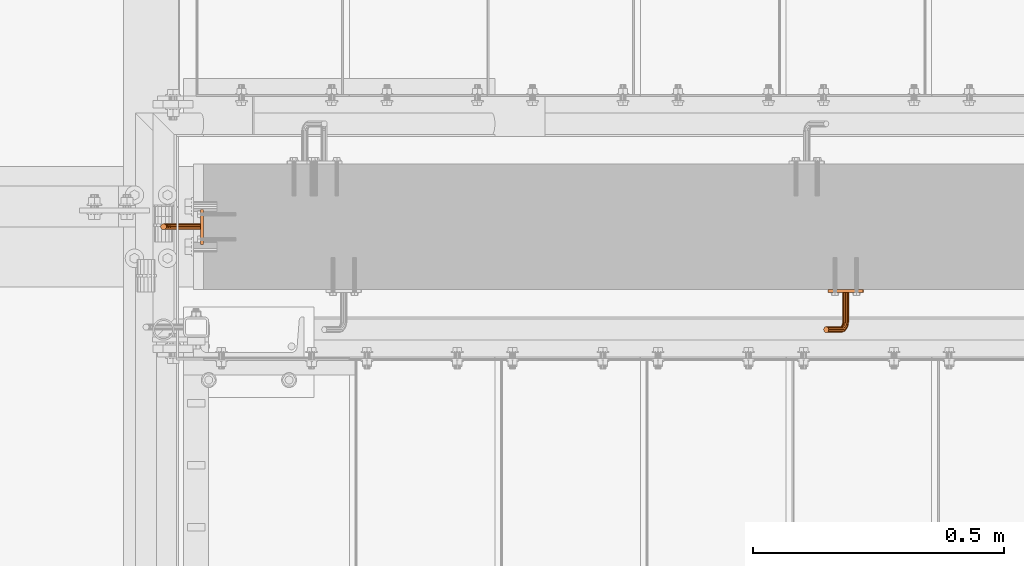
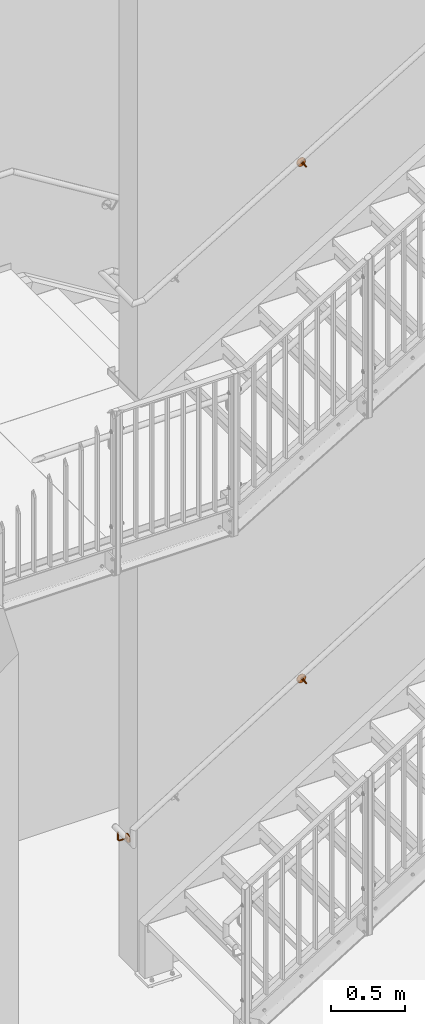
# One storey, part 375 of 410: 3 proxies.
"""IFC2X3 building model written with IfcOpenShell, lengths in millimetres."""

from ifc_helpers import new_model, entity, si_unit, converted_unit, origin_with_axes, place, context, project, spatial, faceted_brep, element, save


model = new_model("IFC2X3")

# Units and contexts
model_context = context("Model", 3, precision=1e-09, world=origin_with_axes())
ifc_project = project(units=[si_unit("LENGTHUNIT", "METRE", prefix="MILLI"), si_unit("AREAUNIT", "SQUARE_METRE"), si_unit("VOLUMEUNIT", "CUBIC_METRE"), converted_unit("PLANEANGLEUNIT", "DEGREE", entity("IfcPlaneAngleMeasure", 0.01745329), si_unit("PLANEANGLEUNIT", "RADIAN"), dimensions=[0, 0, 0, 0, 0, 0, 0])], contexts=[model_context])

# Site, building, storey
site_placement = place(None, origin_with_axes())
site = spatial("IfcSite", under=ifc_project, at=site_placement, Name="mKR Teilneubau & Sanierung BA1 - Ostfildern", CompositionType="ELEMENT")
building_placement = place(site_placement, origin_with_axes())
building = spatial("IfcBuilding", under=site, at=building_placement, Name="Struktur 1", CompositionType="ELEMENT")
storey_placement = place(building_placement, origin_with_axes())
storey = spatial("IfcBuildingStorey", under=building, at=storey_placement, Name="Default Storey", CompositionType="ELEMENT", Elevation=0.0)

# Proxies
proxy_1_placement = place(None, origin_with_axes())
element("IfcBuildingElementProxy", 1, at=proxy_1_placement, inside=storey, ObjectType="-", context=model_context, shape_type="Brep", body=[
    faceted_brep([(-451.167253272, 16855.0, -2803.571395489), (-451.167253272, 16849.0, -2803.571395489), (-450.536690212, 16849.0, -2805.679053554), (-450.536690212, 16855.0, -2805.679053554), (-424.721301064, 16849.0, -2755.340156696), (-436.131583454, 16849.0, -2756.938034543), (-446.404795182, 16849.0, -2762.154247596), (-454.427674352, 16849.0, -2770.423538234), (-459.330817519, 16849.0, -2780.849800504), (-460.58289304, 16849.0, -2792.303187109), (-458.048219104, 16849.0, -2803.542545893), (-452.001466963, 16849.0, -2813.349917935), (-443.097896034, 16849.0, -2820.662522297), (-432.302346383, 16849.0, -2824.68792483), (-420.784683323, 16849.0, -2824.989910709), (-409.793024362, 16849.0, -2821.535755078), (-400.518486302, 16849.0, -2814.699769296), (-393.966109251, 16849.0, -2805.222738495), (-390.845944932, 16849.0, -2794.131646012), (-391.496111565, 16849.0, -2782.628383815), (-395.846153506, 16849.0, -2771.959508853), (-403.424676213, 16849.0, -2763.281159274), (-413.410429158, 16849.0, -2757.533768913), (-408.606524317, 16849.0, -2777.330504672), (-408.098778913, 16849.0, -2775.189937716), (-406.588775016, 16849.0, -2773.590025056), (-404.481116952, 16849.0, -2772.959461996), (-402.340549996, 16849.0, -2773.467207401), (-400.740637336, 16849.0, -2774.977211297), (-400.110074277, 16849.0, -2777.084869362), (-400.617819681, 16849.0, -2779.225436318), (-402.127823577, 16849.0, -2780.825348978), (-404.235481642, 16849.0, -2781.455912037), (-406.376048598, 16849.0, -2780.948166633), (-407.975961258, 16849.0, -2779.438162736), (-450.659507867, 16849.0, -2801.430828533), (-449.149503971, 16849.0, -2799.830915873), (-447.041845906, 16849.0, -2799.200352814), (-444.90127895, 16849.0, -2799.708098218), (-443.30136629, 16849.0, -2801.218102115), (-442.670803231, 16849.0, -2803.325760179), (-443.178548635, 16849.0, -2805.466327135), (-444.688552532, 16849.0, -2807.066239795), (-446.796210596, 16849.0, -2807.696802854), (-448.936777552, 16849.0, -2807.18905745), (-450.659507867, 16855.0, -2801.430828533), (-393.966109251, 16855.0, -2805.222738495), (-400.518486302, 16855.0, -2814.699769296), (-409.793024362, 16855.0, -2821.535755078), (-420.784683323, 16855.0, -2824.989910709), (-432.302346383, 16855.0, -2824.68792483), (-443.097896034, 16855.0, -2820.662522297), (-452.001466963, 16855.0, -2813.349917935), (-458.048219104, 16855.0, -2803.542545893), (-460.58289304, 16855.0, -2792.303187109), (-459.330817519, 16855.0, -2780.849800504), (-454.427674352, 16855.0, -2770.423538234), (-446.404795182, 16855.0, -2762.154247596), (-436.131583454, 16855.0, -2756.938034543), (-424.721301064, 16855.0, -2755.340156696), (-413.410429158, 16855.0, -2757.533768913), (-403.424676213, 16855.0, -2763.281159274), (-395.846153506, 16855.0, -2771.959508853), (-391.496111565, 16855.0, -2782.628383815), (-390.845944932, 16855.0, -2794.131646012), (-448.936777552, 16855.0, -2807.18905745), (-446.796210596, 16855.0, -2807.696802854), (-444.688552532, 16855.0, -2807.066239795), (-443.178548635, 16855.0, -2805.466327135), (-442.670803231, 16855.0, -2803.325760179), (-443.30136629, 16855.0, -2801.218102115), (-444.90127895, 16855.0, -2799.708098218), (-447.041845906, 16855.0, -2799.200352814), (-449.149503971, 16855.0, -2799.830915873), (-406.376048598, 16855.0, -2780.948166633), (-404.235481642, 16855.0, -2781.455912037), (-402.127823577, 16855.0, -2780.825348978), (-400.617819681, 16855.0, -2779.225436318), (-400.110074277, 16855.0, -2777.084869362), (-400.740637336, 16855.0, -2774.977211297), (-402.340549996, 16855.0, -2773.467207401), (-404.481116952, 16855.0, -2772.959461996), (-406.588775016, 16855.0, -2773.590025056), (-408.098778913, 16855.0, -2775.189937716), (-408.606524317, 16855.0, -2777.330504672), (-407.975961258, 16855.0, -2779.438162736)], [[[0, 1, 2, 3]], [[4, 5, 6, 7, 8, 9, 10, 11, 12, 13, 14, 15, 16, 17, 18, 19, 20, 21, 22], [23, 24, 25, 26, 27, 28, 29, 30, 31, 32, 33, 34], [2, 1, 35, 36, 37, 38, 39, 40, 41, 42, 43, 44]], [[1, 0, 45, 35]], [[46, 47, 48, 49, 50, 51, 52, 53, 54, 55, 56, 57, 58, 59, 60, 61, 62, 63, 64], [0, 3, 65, 66, 67, 68, 69, 70, 71, 72, 73, 45], [74, 75, 76, 77, 78, 79, 80, 81, 82, 83, 84, 85]], [[3, 2, 44, 65]], [[10, 53, 52, 11]], [[65, 44, 43, 66]], [[35, 45, 73, 36]], [[53, 10, 9, 54]], [[66, 43, 42, 67]], [[11, 52, 51, 12]], [[36, 73, 72, 37]], [[8, 55, 54, 9]], [[67, 42, 41, 68]], [[55, 8, 7, 56]], [[50, 13, 12, 51]], [[37, 72, 71, 38]], [[13, 50, 49, 14]], [[68, 41, 40, 69]], [[38, 71, 70, 39]], [[56, 7, 6, 57]], [[69, 40, 39, 70]], [[14, 49, 48, 15]], [[57, 6, 5, 58]], [[34, 85, 84, 23]], [[15, 48, 47, 16]], [[85, 34, 33, 74]], [[23, 84, 83, 24]], [[58, 5, 4, 59]], [[16, 47, 46, 17]], [[74, 33, 32, 75]], [[24, 83, 82, 25]], [[59, 4, 22, 60]], [[17, 46, 64, 18]], [[75, 32, 31, 76]], [[25, 82, 81, 26]], [[60, 22, 21, 61]], [[18, 64, 63, 19]], [[76, 31, 30, 77]], [[20, 62, 61, 21]], [[26, 81, 80, 27]], [[62, 20, 19, 63]], [[77, 30, 29, 78]], [[27, 80, 79, 28]], [[78, 29, 28, 79]]]),
    faceted_brep([(-420.5313763, 16793.0, -2787.179225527), (-420.5313763, 16849.0, -2787.179225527), (-422.790076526, 16849.0, -2785.04745532), (-422.790076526, 16793.0, -2785.04745532), (-430.662343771, 16772.0, -2772.279236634), (-460.576959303, 16772.0, -2723.760005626), (-462.446356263, 16769.803847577, -2724.912585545), (-432.531740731, 16769.803847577, -2773.431816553), (-429.978096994, 16775.0, -2771.857363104), (-459.892712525, 16775.0, -2723.338132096), (-427.873046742, 16771.569549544, -2780.987863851), (-426.444723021, 16773.598529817, -2779.119896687), (-425.465274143, 16849.0, -2796.325626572), (-428.487251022, 16849.0, -2795.608809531), (-430.745951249, 16849.0, -2793.477039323), (-431.63615792, 16849.0, -2790.501522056), (-430.919340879, 16849.0, -2787.479545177), (-428.787570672, 16849.0, -2785.220844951), (-425.812053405, 16849.0, -2784.330638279), (-419.641169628, 16849.0, -2790.154742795), (-420.357986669, 16849.0, -2793.176719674), (-422.489756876, 16849.0, -2795.4354199), (-419.641169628, 16793.0, -2790.154742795), (-423.389317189, 16787.259748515, -2784.075532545), (-421.250465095, 16786.111698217, -2786.012918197), (-467.553643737, 16780.196152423, -2728.061492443), (-469.423040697, 16778.0, -2729.214072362), (-470.107287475, 16775.0, -2729.635945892), (-469.423040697, 16772.0, -2729.214072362), (-467.553643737, 16769.803847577, -2728.061492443), (-465.0, 16769.0, -2726.487038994), (-460.576959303, 16778.0, -2723.760005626), (-462.446356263, 16780.196152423, -2724.912585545), (-465.0, 16781.0, -2726.487038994), (-426.362993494, 16776.370168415, -2777.720786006), (-422.869196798, 16778.150757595, -2784.919128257), (-423.298256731, 16780.272077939, -2782.691555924), (-425.812053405, 16793.0, -2784.330638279), (-420.480106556, 16784.96364792, -2788.794050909), (-435.085384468, 16769.0, -2775.006270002), (-430.662343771, 16778.0, -2772.279236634), (-430.265246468, 16770.82689122, -2782.824167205), (-423.923596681, 16776.597843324, -2787.393571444), (-425.095810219, 16782.393398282, -2781.307730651), (-426.323559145, 16788.100179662, -2783.501014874), (-420.357986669, 16793.0, -2793.176719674), (-427.649757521, 16779.141807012, -2777.165422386), (-428.787570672, 16793.0, -2785.220844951), (-421.284658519, 16784.123216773, -2791.673728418), (-437.639028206, 16769.803847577, -2776.580723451), (-432.531740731, 16780.196152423, -2773.431816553), (-432.980334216, 16771.569549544, -2784.136770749), (-426.178930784, 16776.029437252, -2789.451860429), (-427.780204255, 16783.946312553, -2781.138447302), (-429.266963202, 16788.407798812, -2784.443306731), (-422.489756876, 16793.0, -2795.4354199), (-429.960227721, 16781.170787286, -2777.60261506), (-439.508425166, 16772.0, -2777.73330337), (-430.919340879, 16793.0, -2787.479545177), (-423.448541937, 16783.815597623, -2793.880343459), (-435.085384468, 16781.0, -2775.006270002), (-435.290804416, 16773.598529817, -2784.573963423), (-429.030884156, 16776.597843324, -2790.542478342), (-430.632157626, 16784.514718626, -2782.229065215), (-431.43084662, 16788.100179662, -2786.649921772), (-425.465274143, 16793.0, -2796.325626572), (-432.675315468, 16781.91344561, -2778.915218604), (-440.192671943, 16775.0, -2778.1551769), (-431.63615792, 16793.0, -2790.501522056), (-426.391945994, 16784.123216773, -2794.822635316), (-437.639028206, 16780.196152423, -2776.580723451), (-439.508425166, 16778.0, -2777.73330337), (-436.577568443, 16776.370168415, -2784.018599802), (-431.715278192, 16778.150757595, -2790.373194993), (-432.88749173, 16783.946312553, -2784.2873542), (-432.235398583, 16787.259748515, -2789.529599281), (-430.745951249, 16793.0, -2793.477039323), (-428.487251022, 16793.0, -2795.608809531), (-435.067515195, 16781.170787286, -2780.751521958), (-429.32618795, 16784.96364792, -2794.248117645), (-436.495838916, 16779.141807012, -2782.619489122), (-433.51283168, 16780.272077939, -2788.98936972), (-431.465040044, 16786.111698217, -2792.310731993), (-433.941891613, 16782.393398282, -2786.761797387)], [[[0, 1, 2, 3]], [[4, 5, 6, 7]], [[5, 4, 8, 9]], [[4, 7, 10, 11]], [[12, 13, 14, 15, 16, 17, 18, 2, 1, 19, 20, 21]], [[1, 0, 22, 19]], [[0, 3, 23, 24]], [[25, 26, 27, 28, 29, 30, 6, 5, 9, 31, 32, 33]], [[11, 34, 8, 4]], [[35, 36, 34, 11]], [[3, 2, 18, 37]], [[24, 38, 22, 0]], [[36, 35, 38, 24]], [[7, 6, 30, 39]], [[9, 8, 40, 31]], [[7, 39, 41, 10]], [[11, 10, 42, 35]], [[24, 23, 43, 36]], [[3, 37, 44, 23]], [[19, 22, 45, 20]], [[36, 43, 46, 34]], [[34, 46, 40, 8]], [[37, 18, 17, 47]], [[38, 48, 45, 22]], [[35, 42, 48, 38]], [[39, 30, 29, 49]], [[31, 40, 50, 32]], [[39, 49, 51, 41]], [[10, 41, 52, 42]], [[23, 44, 53, 43]], [[37, 47, 54, 44]], [[20, 45, 55, 21]], [[43, 53, 56, 46]], [[46, 56, 50, 40]], [[49, 29, 28, 57]], [[47, 17, 16, 58]], [[48, 59, 55, 45]], [[42, 52, 59, 48]], [[32, 50, 60, 33]], [[49, 57, 61, 51]], [[41, 51, 62, 52]], [[44, 54, 63, 53]], [[47, 58, 64, 54]], [[21, 55, 65, 12]], [[56, 66, 60, 50]], [[53, 63, 66, 56]], [[57, 28, 27, 67]], [[58, 16, 15, 68]], [[59, 69, 65, 55]], [[52, 62, 69, 59]], [[33, 60, 70, 25]], [[26, 71, 67, 27]], [[25, 70, 71, 26]], [[57, 67, 72, 61]], [[51, 61, 73, 62]], [[54, 64, 74, 63]], [[58, 68, 75, 64]], [[14, 76, 68, 15]], [[13, 77, 76, 14]], [[12, 65, 77, 13]], [[66, 78, 70, 60]], [[63, 74, 78, 66]], [[69, 79, 77, 65]], [[62, 73, 79, 69]], [[67, 71, 80, 72]], [[71, 70, 78, 80]], [[61, 72, 81, 73]], [[68, 76, 82, 75]], [[64, 75, 83, 74]], [[76, 77, 79, 82]], [[74, 83, 80, 78]], [[73, 81, 82, 79]], [[72, 80, 83, 81]], [[75, 82, 81, 83]]]),
])
proxy_2_placement = place(None, origin_with_axes())
element("IfcBuildingElementProxy", 2, at=proxy_2_placement, inside=storey, ObjectType="-", context=model_context, shape_type="Brep", body=[
    faceted_brep([(-452.116573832, 16855.0, 1466.939563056), (-452.116573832, 16849.0, 1466.939563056), (-451.511986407, 16849.0, 1464.824307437), (-451.511986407, 16855.0, 1464.824307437), (-425.079293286, 16849.0, 1514.841820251), (-436.508368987, 16849.0, 1513.384429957), (-446.844971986, 16849.0, 1508.294990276), (-454.96897096, 16849.0, 1500.125020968), (-460.000004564, 16849.0, 1489.759864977), (-461.392882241, 16849.0, 1478.322747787), (-458.996664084, 16849.0, 1467.053058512), (-453.071017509, 16849.0, 1457.17204285), (-444.25807827, 16849.0, 1449.750462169), (-433.51286508, 16849.0, 1445.592559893), (-421.999788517, 16849.0, 1445.148909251), (-410.966469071, 16849.0, 1448.467586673), (-401.608538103, 16849.0, 1455.188961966), (-394.940072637, 16849.0, 1464.584669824), (-391.683704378, 16849.0, 1475.636539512), (-392.192311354, 16849.0, 1487.146929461), (-396.410778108, 16849.0, 1497.868510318), (-403.881968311, 16849.0, 1506.639432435), (-413.796262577, 16849.0, 1512.509230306), (-451.582534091, 16849.0, 1469.07372187), (-450.052962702, 16849.0, 1470.654937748), (-447.937707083, 16849.0, 1471.259525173), (-445.803548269, 16849.0, 1470.725485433), (-444.22233239, 16849.0, 1469.195914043), (-443.617744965, 16849.0, 1467.080658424), (-444.151784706, 16849.0, 1464.94649961), (-445.681356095, 16849.0, 1463.365283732), (-447.796611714, 16849.0, 1462.760696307), (-449.930770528, 16849.0, 1463.294736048), (-409.23625609, 16849.0, 1492.654896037), (-408.702216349, 16849.0, 1494.789054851), (-407.17264496, 16849.0, 1496.37027073), (-405.057389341, 16849.0, 1496.974858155), (-402.923230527, 16849.0, 1496.440818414), (-401.342014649, 16849.0, 1494.911247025), (-400.737427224, 16849.0, 1492.795991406), (-401.271466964, 16849.0, 1490.661832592), (-402.801038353, 16849.0, 1489.080616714), (-404.916293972, 16849.0, 1488.476029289), (-407.050452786, 16849.0, 1489.010069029), (-408.631668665, 16849.0, 1490.539640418), (-451.582534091, 16855.0, 1469.07372187), (-394.940072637, 16855.0, 1464.584669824), (-401.608538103, 16855.0, 1455.188961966), (-410.966469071, 16855.0, 1448.467586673), (-421.999788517, 16855.0, 1445.148909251), (-433.51286508, 16855.0, 1445.592559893), (-444.25807827, 16855.0, 1449.750462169), (-453.071017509, 16855.0, 1457.17204285), (-458.996664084, 16855.0, 1467.053058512), (-461.392882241, 16855.0, 1478.322747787), (-460.000004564, 16855.0, 1489.759864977), (-454.96897096, 16855.0, 1500.125020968), (-446.844971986, 16855.0, 1508.294990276), (-436.508368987, 16855.0, 1513.384429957), (-425.079293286, 16855.0, 1514.841820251), (-413.796262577, 16855.0, 1512.509230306), (-403.881968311, 16855.0, 1506.639432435), (-396.410778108, 16855.0, 1497.868510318), (-392.192311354, 16855.0, 1487.146929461), (-391.683704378, 16855.0, 1475.636539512), (-407.050452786, 16855.0, 1489.010069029), (-404.916293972, 16855.0, 1488.476029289), (-402.801038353, 16855.0, 1489.080616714), (-401.271466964, 16855.0, 1490.661832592), (-400.737427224, 16855.0, 1492.795991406), (-401.342014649, 16855.0, 1494.911247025), (-402.923230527, 16855.0, 1496.440818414), (-405.057389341, 16855.0, 1496.974858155), (-407.17264496, 16855.0, 1496.37027073), (-408.702216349, 16855.0, 1494.789054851), (-409.23625609, 16855.0, 1492.654896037), (-408.631668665, 16855.0, 1490.539640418), (-449.930770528, 16855.0, 1463.294736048), (-447.796611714, 16855.0, 1462.760696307), (-445.681356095, 16855.0, 1463.365283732), (-444.151784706, 16855.0, 1464.94649961), (-443.617744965, 16855.0, 1467.080658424), (-444.22233239, 16855.0, 1469.195914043), (-445.803548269, 16855.0, 1470.725485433), (-447.937707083, 16855.0, 1471.259525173), (-450.052962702, 16855.0, 1470.654937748)], [[[0, 1, 2, 3]], [[4, 5, 6, 7, 8, 9, 10, 11, 12, 13, 14, 15, 16, 17, 18, 19, 20, 21, 22], [2, 1, 23, 24, 25, 26, 27, 28, 29, 30, 31, 32], [33, 34, 35, 36, 37, 38, 39, 40, 41, 42, 43, 44]], [[1, 0, 45, 23]], [[46, 47, 48, 49, 50, 51, 52, 53, 54, 55, 56, 57, 58, 59, 60, 61, 62, 63, 64], [65, 66, 67, 68, 69, 70, 71, 72, 73, 74, 75, 76], [0, 3, 77, 78, 79, 80, 81, 82, 83, 84, 85, 45]], [[3, 2, 32, 77]], [[10, 53, 52, 11]], [[77, 32, 31, 78]], [[23, 45, 85, 24]], [[53, 10, 9, 54]], [[78, 31, 30, 79]], [[11, 52, 51, 12]], [[24, 85, 84, 25]], [[8, 55, 54, 9]], [[79, 30, 29, 80]], [[55, 8, 7, 56]], [[50, 13, 12, 51]], [[25, 84, 83, 26]], [[13, 50, 49, 14]], [[80, 29, 28, 81]], [[26, 83, 82, 27]], [[56, 7, 6, 57]], [[81, 28, 27, 82]], [[14, 49, 48, 15]], [[57, 6, 5, 58]], [[44, 76, 75, 33]], [[15, 48, 47, 16]], [[76, 44, 43, 65]], [[33, 75, 74, 34]], [[58, 5, 4, 59]], [[16, 47, 46, 17]], [[65, 43, 42, 66]], [[34, 74, 73, 35]], [[59, 4, 22, 60]], [[17, 46, 64, 18]], [[66, 42, 41, 67]], [[35, 73, 72, 36]], [[60, 22, 21, 61]], [[18, 64, 63, 19]], [[67, 41, 40, 68]], [[20, 62, 61, 21]], [[36, 72, 71, 37]], [[62, 20, 19, 63]], [[68, 40, 39, 69]], [[37, 71, 70, 38]], [[69, 39, 38, 70]]]),
    faceted_brep([(-421.281362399, 16793.0, 1482.953617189), (-421.281362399, 16849.0, 1482.953617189), (-423.513667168, 16849.0, 1485.113012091), (-423.513667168, 16793.0, 1485.113012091), (-431.228267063, 16772.0, 1497.977107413), (-460.543746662, 16772.0, 1546.860669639), (-462.427180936, 16769.803847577, 1545.731173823), (-433.111701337, 16769.803847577, 1496.847611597), (-430.538882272, 16775.0, 1498.390531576), (-459.854361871, 16775.0, 1547.274093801), (-428.546312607, 16771.569549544, 1489.234825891), (-427.095117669, 16773.598529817, 1491.0850808), (-426.327403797, 16849.0, 1473.868603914), (-429.340333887, 16849.0, 1474.622542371), (-431.572638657, 16849.0, 1476.781937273), (-432.426173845, 16849.0, 1479.7681805), (-431.672235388, 16849.0, 1482.78111059), (-429.512840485, 16849.0, 1485.01341536), (-426.526597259, 16849.0, 1485.866950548), (-420.42782721, 16849.0, 1479.967373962), (-421.181765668, 16849.0, 1476.954443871), (-423.34116057, 16849.0, 1474.722139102), (-420.42782721, 16793.0, 1479.967373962), (-424.100906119, 16787.259748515, 1486.092233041), (-421.986049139, 16786.111698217, 1484.128682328), (-467.572819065, 16780.196152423, 1542.645333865), (-469.456253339, 16778.0, 1541.515838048), (-470.145638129, 16775.0, 1541.102413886), (-469.456253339, 16772.0, 1541.515838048), (-467.572819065, 16769.803847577, 1542.645333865), (-465.0, 16769.0, 1544.188253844), (-460.543746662, 16778.0, 1546.860669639), (-462.427180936, 16780.196152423, 1545.731173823), (-465.0, 16781.0, 1544.188253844), (-426.996182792, 16776.370168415, 1492.483080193), (-423.591202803, 16778.150757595, 1485.242302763), (-423.992827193, 16780.272077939, 1487.474984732), (-426.526597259, 16793.0, 1485.866950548), (-421.249961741, 16784.96364792, 1481.338283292), (-435.684520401, 16769.0, 1495.304691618), (-431.228267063, 16778.0, 1497.977107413), (-430.960921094, 16770.82689122, 1487.428089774), (-424.675962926, 16776.597843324, 1482.781017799), (-425.773221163, 16782.393398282, 1488.880818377), (-427.027858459, 16788.100179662, 1486.702803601), (-421.181765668, 16793.0, 1476.954443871), (-428.276017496, 16779.141807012, 1493.054231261), (-429.512840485, 16793.0, 1485.01341536), (-422.089877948, 16784.123216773, 1478.468721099), (-438.257339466, 16769.803847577, 1493.761771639), (-433.111701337, 16780.196152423, 1496.847611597), (-433.691950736, 16771.569549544, 1486.148985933), (-426.956446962, 16776.029437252, 1480.75062916), (-428.455329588, 16783.946312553, 1489.083111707), (-429.982631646, 16788.407798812, 1485.79679212), (-423.34116057, 16793.0, 1474.722139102), (-430.591691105, 16781.170787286, 1492.645494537), (-440.140773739, 16772.0, 1492.632275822), (-431.672235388, 16793.0, 1482.78111059), (-424.280742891, 16783.815597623, 1476.288892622), (-435.684520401, 16781.0, 1495.304691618), (-436.007624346, 16773.598529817, 1485.740249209), (-429.821601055, 16776.597843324, 1479.695177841), (-431.320483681, 16784.514718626, 1488.027660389), (-432.173496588, 16788.100179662, 1483.616963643), (-426.327403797, 16793.0, 1473.868603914), (-433.322720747, 16781.91344561, 1491.366390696), (-440.83015853, 16775.0, 1492.21885166), (-432.426173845, 16793.0, 1479.7681805), (-427.235516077, 16784.123216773, 1475.382881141), (-438.257339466, 16780.196152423, 1493.761771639), (-440.140773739, 16778.0, 1492.632275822), (-437.28745905, 16776.370168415, 1486.311400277), (-432.50370948, 16778.150757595, 1479.897471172), (-433.600967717, 16783.946312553, 1485.99727175), (-433.013412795, 16787.259748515, 1480.74740145), (-431.572638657, 16793.0, 1476.781937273), (-429.340333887, 16793.0, 1474.622542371), (-435.737329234, 16781.170787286, 1489.559654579), (-430.162468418, 16784.96364792, 1475.993451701), (-437.188524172, 16779.141807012, 1487.70939967), (-434.284103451, 16780.272077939, 1481.303304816), (-432.277325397, 16786.111698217, 1477.957002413), (-434.68572784, 16782.393398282, 1483.535986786)], [[[0, 1, 2, 3]], [[4, 5, 6, 7]], [[5, 4, 8, 9]], [[4, 7, 10, 11]], [[12, 13, 14, 15, 16, 17, 18, 2, 1, 19, 20, 21]], [[1, 0, 22, 19]], [[0, 3, 23, 24]], [[25, 26, 27, 28, 29, 30, 6, 5, 9, 31, 32, 33]], [[11, 34, 8, 4]], [[35, 36, 34, 11]], [[3, 2, 18, 37]], [[24, 38, 22, 0]], [[36, 35, 38, 24]], [[7, 6, 30, 39]], [[9, 8, 40, 31]], [[7, 39, 41, 10]], [[11, 10, 42, 35]], [[24, 23, 43, 36]], [[3, 37, 44, 23]], [[19, 22, 45, 20]], [[36, 43, 46, 34]], [[34, 46, 40, 8]], [[37, 18, 17, 47]], [[38, 48, 45, 22]], [[35, 42, 48, 38]], [[39, 30, 29, 49]], [[31, 40, 50, 32]], [[39, 49, 51, 41]], [[10, 41, 52, 42]], [[23, 44, 53, 43]], [[37, 47, 54, 44]], [[20, 45, 55, 21]], [[43, 53, 56, 46]], [[46, 56, 50, 40]], [[49, 29, 28, 57]], [[47, 17, 16, 58]], [[48, 59, 55, 45]], [[42, 52, 59, 48]], [[32, 50, 60, 33]], [[49, 57, 61, 51]], [[41, 51, 62, 52]], [[44, 54, 63, 53]], [[47, 58, 64, 54]], [[21, 55, 65, 12]], [[56, 66, 60, 50]], [[53, 63, 66, 56]], [[57, 28, 27, 67]], [[58, 16, 15, 68]], [[59, 69, 65, 55]], [[52, 62, 69, 59]], [[33, 60, 70, 25]], [[26, 71, 67, 27]], [[25, 70, 71, 26]], [[57, 67, 72, 61]], [[51, 61, 73, 62]], [[54, 64, 74, 63]], [[58, 68, 75, 64]], [[14, 76, 68, 15]], [[13, 77, 76, 14]], [[12, 65, 77, 13]], [[66, 78, 70, 60]], [[63, 74, 78, 66]], [[69, 79, 77, 65]], [[62, 73, 79, 69]], [[67, 71, 80, 72]], [[71, 70, 78, 80]], [[61, 72, 81, 73]], [[68, 76, 82, 75]], [[64, 75, 83, 74]], [[76, 77, 79, 82]], [[74, 83, 80, 78]], [[73, 81, 82, 79]], [[72, 80, 83, 81]], [[75, 82, 81, 83]]]),
])
proxy_3_placement = place(None, origin_with_axes())
element("IfcBuildingElementProxy", 3, at=proxy_3_placement, inside=storey, ObjectType="-", context=model_context, shape_type="Brep", body=[
    faceted_brep([(-1705.0, 17008.680607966, -3735.275), (-1711.0, 17008.680607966, -3735.275), (-1711.0, 17009.25, -3737.4), (-1705.0, 17009.25, -3737.4), (-1711.0, 16960.856814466, -3708.099173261), (-1711.0, 16971.40800795, -3703.470990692), (-1711.0, 16982.890277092, -3702.519542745), (-1711.0, 16994.059339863, -3705.347933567), (-1711.0, 17003.704855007, -3711.649663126), (-1711.0, 17010.781581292, -3720.741841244), (-1711.0, 17014.522645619, -3731.63918934), (-1711.0, 17014.522645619, -3743.16081066), (-1711.0, 17010.781581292, -3754.058158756), (-1711.0, 17003.704855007, -3763.150336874), (-1711.0, 16994.059339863, -3769.452066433), (-1711.0, 16982.890277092, -3772.280457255), (-1711.0, 16971.40800795, -3771.329009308), (-1711.0, 16960.856814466, -3766.700826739), (-1711.0, 16952.380082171, -3758.897444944), (-1711.0, 16946.89639654, -3748.764481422), (-1711.0, 16945.0, -3737.4), (-1711.0, 16946.89639654, -3726.035518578), (-1711.0, 16952.380082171, -3715.902555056), (-1711.0, 17007.125, -3733.719392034), (-1711.0, 17005.0, -3733.15), (-1711.0, 17002.875, -3733.719392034), (-1711.0, 17001.319392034, -3735.275), (-1711.0, 17000.75, -3737.4), (-1711.0, 17001.319392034, -3739.525), (-1711.0, 17002.875, -3741.080607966), (-1711.0, 17005.0, -3741.65), (-1711.0, 17007.125, -3741.080607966), (-1711.0, 17008.680607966, -3739.525), (-1711.0, 16958.680607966, -3735.275), (-1711.0, 16957.125, -3733.719392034), (-1711.0, 16955.0, -3733.15), (-1711.0, 16952.875, -3733.719392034), (-1711.0, 16951.319392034, -3735.275), (-1711.0, 16950.75, -3737.4), (-1711.0, 16951.319392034, -3739.525), (-1711.0, 16952.875, -3741.080607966), (-1711.0, 16955.0, -3741.65), (-1711.0, 16957.125, -3741.080607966), (-1711.0, 16958.680607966, -3739.525), (-1711.0, 16959.25, -3737.4), (-1705.0, 17007.125, -3733.719392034), (-1705.0, 16960.856814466, -3766.700826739), (-1705.0, 16971.40800795, -3771.329009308), (-1705.0, 16982.890277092, -3772.280457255), (-1705.0, 16994.059339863, -3769.452066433), (-1705.0, 17003.704855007, -3763.150336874), (-1705.0, 17010.781581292, -3754.058158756), (-1705.0, 17014.522645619, -3743.16081066), (-1705.0, 17014.522645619, -3731.63918934), (-1705.0, 17010.781581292, -3720.741841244), (-1705.0, 17003.704855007, -3711.649663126), (-1705.0, 16994.059339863, -3705.347933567), (-1705.0, 16982.890277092, -3702.519542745), (-1705.0, 16971.40800795, -3703.470990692), (-1705.0, 16960.856814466, -3708.099173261), (-1705.0, 16952.380082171, -3715.902555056), (-1705.0, 16946.89639654, -3726.035518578), (-1705.0, 16945.0, -3737.4), (-1705.0, 16946.89639654, -3748.764481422), (-1705.0, 16952.380082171, -3758.897444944), (-1705.0, 17008.680607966, -3739.525), (-1705.0, 17007.125, -3741.080607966), (-1705.0, 17005.0, -3741.65), (-1705.0, 17002.875, -3741.080607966), (-1705.0, 17001.319392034, -3739.525), (-1705.0, 17000.75, -3737.4), (-1705.0, 17001.319392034, -3735.275), (-1705.0, 17002.875, -3733.719392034), (-1705.0, 17005.0, -3733.15), (-1705.0, 16958.680607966, -3739.525), (-1705.0, 16957.125, -3741.080607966), (-1705.0, 16955.0, -3741.65), (-1705.0, 16952.875, -3741.080607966), (-1705.0, 16951.319392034, -3739.525), (-1705.0, 16950.75, -3737.4), (-1705.0, 16951.319392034, -3735.275), (-1705.0, 16952.875, -3733.719392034), (-1705.0, 16955.0, -3733.15), (-1705.0, 16957.125, -3733.719392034), (-1705.0, 16958.680607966, -3735.275), (-1705.0, 16959.25, -3737.4)], [[[0, 1, 2, 3]], [[4, 5, 6, 7, 8, 9, 10, 11, 12, 13, 14, 15, 16, 17, 18, 19, 20, 21, 22], [2, 1, 23, 24, 25, 26, 27, 28, 29, 30, 31, 32], [33, 34, 35, 36, 37, 38, 39, 40, 41, 42, 43, 44]], [[1, 0, 45, 23]], [[46, 47, 48, 49, 50, 51, 52, 53, 54, 55, 56, 57, 58, 59, 60, 61, 62, 63, 64], [0, 3, 65, 66, 67, 68, 69, 70, 71, 72, 73, 45], [74, 75, 76, 77, 78, 79, 80, 81, 82, 83, 84, 85]], [[3, 2, 32, 65]], [[10, 53, 52, 11]], [[65, 32, 31, 66]], [[23, 45, 73, 24]], [[53, 10, 9, 54]], [[66, 31, 30, 67]], [[11, 52, 51, 12]], [[24, 73, 72, 25]], [[8, 55, 54, 9]], [[67, 30, 29, 68]], [[55, 8, 7, 56]], [[50, 13, 12, 51]], [[25, 72, 71, 26]], [[13, 50, 49, 14]], [[68, 29, 28, 69]], [[26, 71, 70, 27]], [[56, 7, 6, 57]], [[69, 28, 27, 70]], [[14, 49, 48, 15]], [[57, 6, 5, 58]], [[44, 85, 84, 33]], [[15, 48, 47, 16]], [[85, 44, 43, 74]], [[33, 84, 83, 34]], [[58, 5, 4, 59]], [[16, 47, 46, 17]], [[74, 43, 42, 75]], [[34, 83, 82, 35]], [[59, 4, 22, 60]], [[17, 46, 64, 18]], [[75, 42, 41, 76]], [[35, 82, 81, 36]], [[60, 22, 21, 61]], [[18, 64, 63, 19]], [[76, 41, 40, 77]], [[20, 62, 61, 21]], [[36, 81, 80, 37]], [[62, 20, 19, 63]], [[77, 40, 39, 78]], [[37, 80, 79, 38]], [[78, 39, 38, 79]]]),
    faceted_brep([(-1767.0, 16974.0, -3737.4), (-1711.0, 16974.0, -3737.4), (-1711.0, 16974.803847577, -3734.4), (-1767.0, 16974.803847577, -3734.4), (-1788.0, 16974.803847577, -3719.4), (-1788.0, 16974.803847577, -3662.4), (-1790.196152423, 16977.0, -3662.4), (-1790.196152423, 16977.0, -3719.4), (-1785.0, 16974.0, -3719.4), (-1785.0, 16974.0, -3662.4), (-1788.430450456, 16977.0, -3728.276783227), (-1786.401470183, 16974.803847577, -3727.43635208), (-1711.0, 16983.0, -3742.596152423), (-1711.0, 16985.196152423, -3740.4), (-1711.0, 16986.0, -3737.4), (-1711.0, 16985.196152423, -3734.4), (-1711.0, 16983.0, -3732.203847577), (-1711.0, 16980.0, -3731.4), (-1711.0, 16977.0, -3732.203847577), (-1711.0, 16974.803847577, -3740.4), (-1711.0, 16977.0, -3742.596152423), (-1711.0, 16980.0, -3743.4), (-1767.0, 16974.803847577, -3740.4), (-1772.740251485, 16974.803847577, -3733.258192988), (-1773.888301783, 16974.0, -3736.029831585), (-1779.803847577, 16983.0, -3662.4), (-1782.0, 16985.196152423, -3662.4), (-1785.0, 16986.0, -3662.4), (-1788.0, 16985.196152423, -3662.4), (-1790.196152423, 16983.0, -3662.4), (-1791.0, 16980.0, -3662.4), (-1782.0, 16974.803847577, -3662.4), (-1779.803847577, 16977.0, -3662.4), (-1779.0, 16980.0, -3662.4), (-1783.629831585, 16974.0, -3726.288301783), (-1781.849242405, 16974.803847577, -3734.249242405), (-1779.727922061, 16974.0, -3732.127922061), (-1767.0, 16977.0, -3732.203847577), (-1775.03635208, 16974.803847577, -3738.801470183), (-1791.0, 16980.0, -3719.4), (-1782.0, 16974.803847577, -3719.4), (-1789.17310878, 16980.0, -3728.584402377), (-1783.402156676, 16977.0, -3735.802156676), (-1777.606601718, 16974.803847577, -3730.006601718), (-1771.899820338, 16977.0, -3731.229212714), (-1767.0, 16977.0, -3742.596152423), (-1780.858192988, 16974.803847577, -3725.140251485), (-1767.0, 16980.0, -3731.4), (-1775.876783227, 16977.0, -3740.830450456), (-1790.196152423, 16983.0, -3719.4), (-1779.803847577, 16977.0, -3719.4), (-1788.430450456, 16983.0, -3728.276783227), (-1783.970562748, 16980.0, -3736.370562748), (-1776.053687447, 16977.0, -3728.453687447), (-1771.592201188, 16980.0, -3730.48655439), (-1767.0, 16980.0, -3743.4), (-1778.829212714, 16977.0, -3724.299820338), (-1788.0, 16985.196152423, -3719.4), (-1767.0, 16983.0, -3732.203847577), (-1776.184402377, 16980.0, -3741.57310878), (-1779.0, 16980.0, -3719.4), (-1786.401470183, 16985.196152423, -3727.43635208), (-1783.402156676, 16983.0, -3735.802156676), (-1775.485281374, 16980.0, -3727.885281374), (-1771.899820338, 16983.0, -3731.229212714), (-1767.0, 16983.0, -3742.596152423), (-1778.08655439, 16980.0, -3723.992201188), (-1785.0, 16986.0, -3719.4), (-1767.0, 16985.196152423, -3734.4), (-1775.876783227, 16983.0, -3740.830450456), (-1779.803847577, 16983.0, -3719.4), (-1782.0, 16985.196152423, -3719.4), (-1783.629831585, 16986.0, -3726.288301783), (-1781.849242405, 16985.196152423, -3734.249242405), (-1776.053687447, 16983.0, -3728.453687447), (-1772.740251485, 16985.196152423, -3733.258192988), (-1767.0, 16986.0, -3737.4), (-1767.0, 16985.196152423, -3740.4), (-1778.829212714, 16983.0, -3724.299820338), (-1775.03635208, 16985.196152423, -3738.801470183), (-1780.858192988, 16985.196152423, -3725.140251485), (-1779.727922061, 16986.0, -3732.127922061), (-1773.888301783, 16986.0, -3736.029831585), (-1777.606601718, 16985.196152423, -3730.006601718)], [[[0, 1, 2, 3]], [[4, 5, 6, 7]], [[5, 4, 8, 9]], [[4, 7, 10, 11]], [[12, 13, 14, 15, 16, 17, 18, 2, 1, 19, 20, 21]], [[1, 0, 22, 19]], [[0, 3, 23, 24]], [[25, 26, 27, 28, 29, 30, 6, 5, 9, 31, 32, 33]], [[11, 34, 8, 4]], [[35, 36, 34, 11]], [[3, 2, 18, 37]], [[24, 38, 22, 0]], [[36, 35, 38, 24]], [[7, 6, 30, 39]], [[9, 8, 40, 31]], [[7, 39, 41, 10]], [[11, 10, 42, 35]], [[24, 23, 43, 36]], [[3, 37, 44, 23]], [[19, 22, 45, 20]], [[36, 43, 46, 34]], [[34, 46, 40, 8]], [[37, 18, 17, 47]], [[38, 48, 45, 22]], [[35, 42, 48, 38]], [[39, 30, 29, 49]], [[31, 40, 50, 32]], [[39, 49, 51, 41]], [[10, 41, 52, 42]], [[23, 44, 53, 43]], [[37, 47, 54, 44]], [[20, 45, 55, 21]], [[43, 53, 56, 46]], [[46, 56, 50, 40]], [[49, 29, 28, 57]], [[47, 17, 16, 58]], [[48, 59, 55, 45]], [[42, 52, 59, 48]], [[32, 50, 60, 33]], [[49, 57, 61, 51]], [[41, 51, 62, 52]], [[44, 54, 63, 53]], [[47, 58, 64, 54]], [[21, 55, 65, 12]], [[56, 66, 60, 50]], [[53, 63, 66, 56]], [[57, 28, 27, 67]], [[58, 16, 15, 68]], [[59, 69, 65, 55]], [[52, 62, 69, 59]], [[33, 60, 70, 25]], [[26, 71, 67, 27]], [[25, 70, 71, 26]], [[57, 67, 72, 61]], [[51, 61, 73, 62]], [[54, 64, 74, 63]], [[58, 68, 75, 64]], [[14, 76, 68, 15]], [[13, 77, 76, 14]], [[12, 65, 77, 13]], [[66, 78, 70, 60]], [[63, 74, 78, 66]], [[69, 79, 77, 65]], [[62, 73, 79, 69]], [[67, 71, 80, 72]], [[71, 70, 78, 80]], [[61, 72, 81, 73]], [[68, 76, 82, 75]], [[64, 75, 83, 74]], [[76, 77, 79, 82]], [[74, 83, 80, 78]], [[73, 81, 82, 79]], [[72, 80, 83, 81]], [[75, 82, 81, 83]]]),
])

save(model, "model.ifc")
